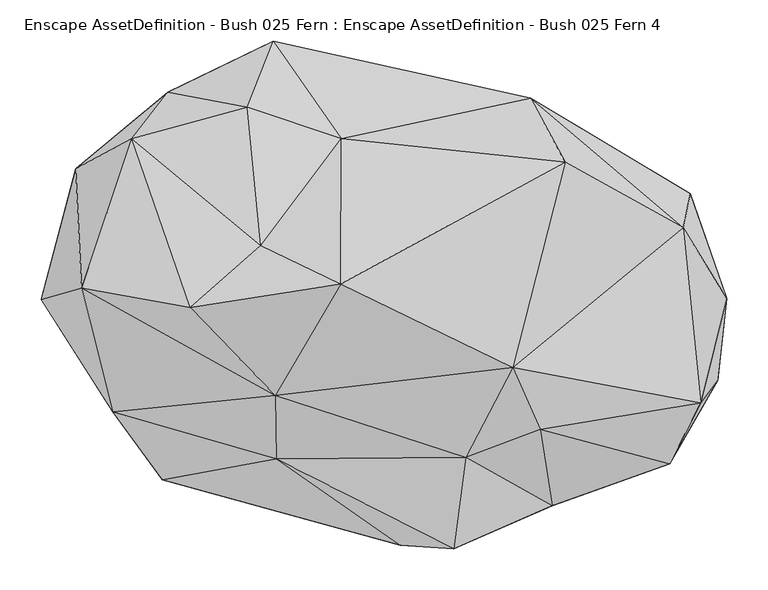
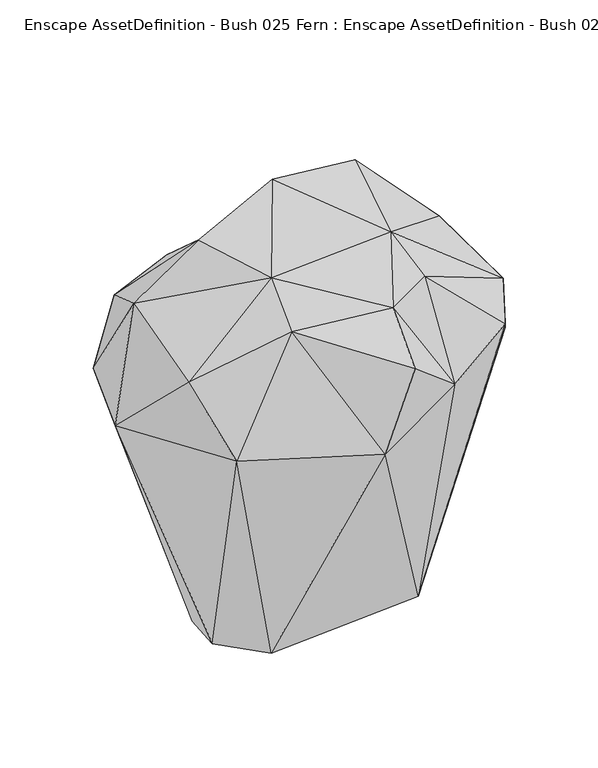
"""IFC4 building model written with IfcOpenShell, lengths in millimetres: geographic element geometry, Enscape AssetDefinition - Bush 025 Fern : Enscape AssetDefinition - Bush 025 Fern 4."""

from ifc_helpers import new_model, si_unit, origin, place, context, project, spatial, triangles, source, transform, mapped, element, save


def enscape_assetdefinition_bush_025_fern_enscape_c4f5b710(model_context):
    return source(origin(), model_context, "Body", "Tessellation", [
        triangles([(97.409325, 116.1325371, 0.0), (148.7674183, 258.6332504, 668.8211672), (343.2107732, 142.1530691, 492.2088733), (224.9062393, 9.7984628, 0.0), (157.1014935, 81.1134174, 0.0), (387.8499089, 14.5484863, 536.7219266), (376.7070208, -85.1589463, 555.7681478), (355.8303154, -112.9022837, 697.6750746), (318.1285469, -186.8199194, 647.1415312), (168.0751515, -106.681715, 0.0), (160.3194476, -144.7618943, 790.1805473), (175.1663429, -237.7842323, 582.7239152), (69.7275163, -179.0149816, 767.0580488), (55.059053, -290.5266888, 693.7865038), (191.1269239, 180.5562756, 860.3480667), (127.3523283, -69.4537139, 861.953928), (334.5259472, 100.685742, 724.3940105), (-82.2732485, 31.8011612, 1000.0000076), (-360.0358, -123.4175576, 705.9691904), (-161.7807501, -103.3191659, 874.2289055), (-160.6517129, -180.8916112, 791.2266317), (-9.9276723, -286.0258916, 510.2922172), (-299.3160869, -206.3799173, 546.846454), (-404.7425915, 172.7082808, 575.5065868), (-397.6145019, 27.5033744, 816.1796144), (-265.7644648, 3.6609639, 935.7146873), (-336.5317841, 209.0933418, 704.849346), (-447.0836843, 13.1394766, 549.944448), (-258.3994529, 40.1383158, 0.0), (-261.838905, -44.8883393, 0.0), (-178.8180822, -131.7885492, 0.0), (-292.6217826, 265.7829048, 569.4121551), (-164.1465395, 328.130044, 536.9402999), (-43.0670887, 138.7166964, 0.0), (-169.247282, 127.5461391, 0.0), (-195.8154096, 247.8288045, 727.6273161), (-179.8025425, 79.1660344, 881.0955648), (-81.4610615, 209.1087115, 769.4915485)], [[1, 34, 33], [18, 15, 38], [18, 38, 37], [36, 37, 38], [38, 33, 36], [32, 36, 33], [33, 34, 35], [35, 32, 33], [23, 31, 22], [23, 30, 31], [30, 23, 28], [28, 29, 30], [32, 35, 24], [29, 28, 24], [24, 35, 29], [32, 27, 36], [27, 37, 36], [27, 32, 24], [18, 37, 26], [27, 26, 37], [26, 27, 25], [25, 24, 28], [27, 24, 25], [23, 19, 28], [25, 28, 19], [22, 14, 21], [23, 21, 19], [21, 23, 22], [20, 26, 25], [20, 25, 19], [18, 26, 20], [20, 19, 21], [18, 16, 15], [15, 16, 17], [18, 20, 16], [16, 20, 13], [13, 21, 14], [13, 20, 21], [12, 14, 22], [13, 14, 12], [13, 12, 11], [16, 13, 11], [16, 8, 17], [8, 16, 11], [9, 8, 11], [11, 12, 9], [10, 12, 22], [12, 10, 9], [22, 31, 10], [7, 8, 9], [10, 7, 9], [8, 6, 17], [7, 6, 8], [7, 10, 4], [7, 4, 6], [4, 3, 6], [3, 17, 6], [3, 4, 5], [38, 2, 33], [2, 38, 15], [1, 2, 5], [3, 2, 17], [1, 33, 2], [5, 2, 3], [2, 15, 17]], closed=False),
    ])


if __name__ == "__main__":
    model = new_model("IFC4")
    model_context = context("Model", 3, world=origin())
    ifc_project = project(units=[si_unit("LENGTHUNIT", "METRE", prefix="MILLI")], contexts=[model_context])
    site = spatial("IfcSite", under=ifc_project)
    building = spatial("IfcBuilding", under=site)
    placement = place(None, origin())
    enscape_assetdefinition_bush_025_fern_enscape_shape = enscape_assetdefinition_bush_025_fern_enscape_c4f5b710(model_context)
    element("IfcGeographicElement", 1, ObjectType="Enscape AssetDefinition - Bush 025 Fern : Enscape AssetDefinition - Bush 025 Fern 4", at=placement, inside=building, context=model_context, shape_type="MappedRepresentation", body=[
        mapped(enscape_assetdefinition_bush_025_fern_enscape_shape, transform((0.0, 0.0, 0.0), x_axis=(1.0, 0.0, 0.0), y_axis=(0.0, 1.0, 0.0), z_axis=(0.0, 0.0, 1.0))),
    ])
    save(model, "model.ifc")
